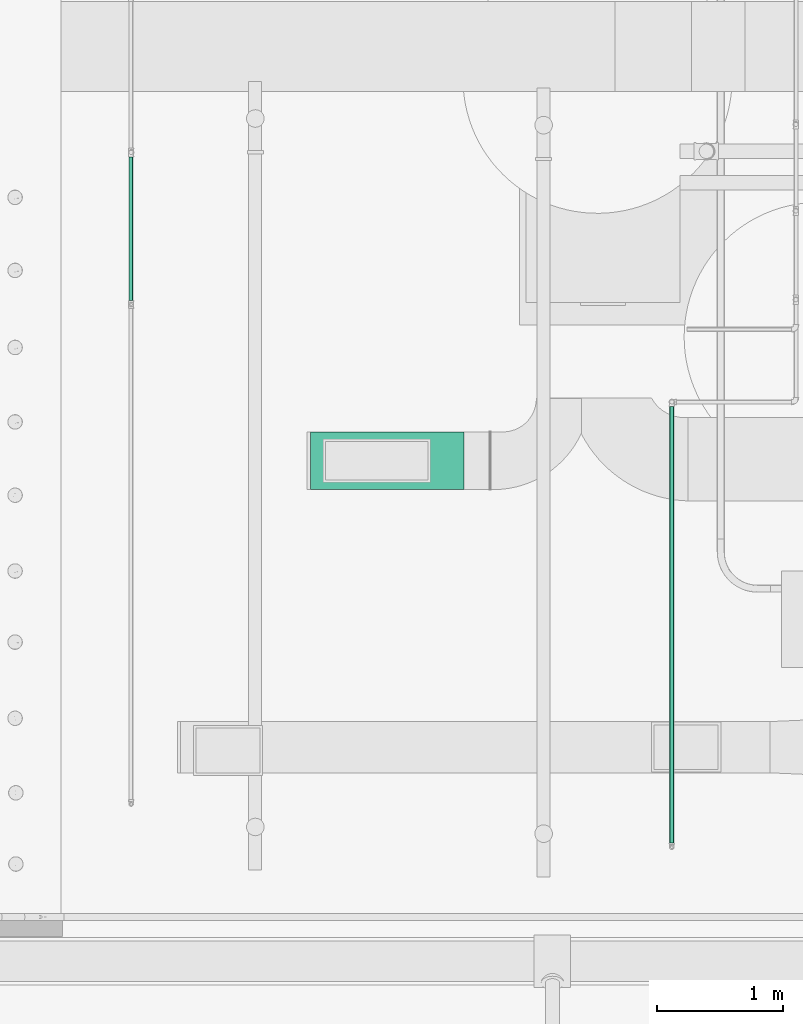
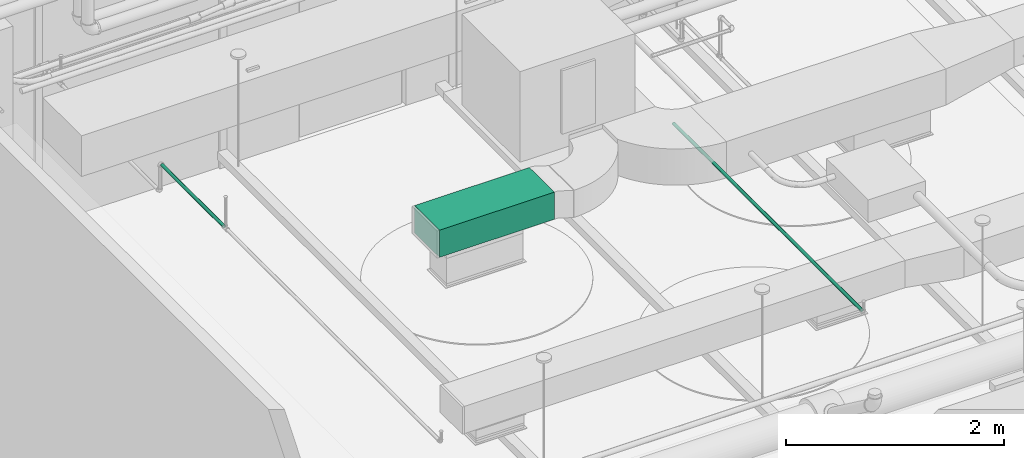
# One storey, part 25 of 108: 2 pipe segments, 1 duct segment.
"""IFC4 building model written with IfcOpenShell, lengths in feet."""

from ifc_helpers import new_model, entity, si_unit, converted_unit, derived_unit, direction, frame, frame_2d, origin, origin_2d_with_axis, place, context, subcontext, project, spatial, rectangle, circle, extrude, type_object, element, save


model = new_model("IFC4")

# Units and contexts
model_context = context("Model", 3, precision=0.0001, world=origin(), true_north=direction((6.12303176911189e-17, 1.0)))
body_context = subcontext(model_context, "Body", "Model", "MODEL_VIEW")
ifc_project = project(units=[converted_unit("LENGTHUNIT", "FOOT", entity("IfcRatioMeasure", 0.3048), si_unit("LENGTHUNIT", "METRE"), dimensions=[1, 0, 0, 0, 0, 0, 0]), converted_unit("AREAUNIT", "SQUARE FOOT", entity("IfcRatioMeasure", 0.09290304), si_unit("AREAUNIT", "SQUARE_METRE"), dimensions=[2, 0, 0, 0, 0, 0, 0]), converted_unit("VOLUMEUNIT", "CUBIC FOOT", entity("IfcRatioMeasure", 0.028316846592), si_unit("VOLUMEUNIT", "CUBIC_METRE"), dimensions=[3, 0, 0, 0, 0, 0, 0]), converted_unit("PLANEANGLEUNIT", "DEGREE", entity("IfcRatioMeasure", 0.0174532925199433), si_unit("PLANEANGLEUNIT", "RADIAN"), dimensions=[0, 0, 0, 0, 0, 0, 0]), si_unit("MASSUNIT", "GRAM", prefix="KILO"), derived_unit("MASSDENSITYUNIT", [(si_unit("MASSUNIT", "GRAM", prefix="KILO"), 1), (si_unit("LENGTHUNIT", "METRE"), -3)]), si_unit("TIMEUNIT", "SECOND"), si_unit("FREQUENCYUNIT", "HERTZ"), si_unit("THERMODYNAMICTEMPERATUREUNIT", "DEGREE_CELSIUS"), derived_unit("THERMALTRANSMITTANCEUNIT", [(si_unit("MASSUNIT", "GRAM", prefix="KILO"), 1), (si_unit("THERMODYNAMICTEMPERATUREUNIT", "KELVIN"), -1), (si_unit("TIMEUNIT", "SECOND"), -3)]), derived_unit("VOLUMETRICFLOWRATEUNIT", [(si_unit("LENGTHUNIT", "METRE"), 3), (si_unit("TIMEUNIT", "SECOND"), -1)]), si_unit("ELECTRICCURRENTUNIT", "AMPERE"), si_unit("ELECTRICVOLTAGEUNIT", "VOLT"), si_unit("POWERUNIT", "WATT"), si_unit("FORCEUNIT", "NEWTON"), si_unit("ILLUMINANCEUNIT", "LUX"), si_unit("LUMINOUSFLUXUNIT", "LUMEN"), si_unit("LUMINOUSINTENSITYUNIT", "CANDELA"), derived_unit("USERDEFINED", [(si_unit("MASSUNIT", "GRAM", prefix="KILO"), -1), (si_unit("LENGTHUNIT", "METRE"), -2), (si_unit("TIMEUNIT", "SECOND"), 3), (si_unit("LUMINOUSFLUXUNIT", "LUMEN"), 1)]), derived_unit("LINEARVELOCITYUNIT", [(si_unit("LENGTHUNIT", "METRE"), 1), (si_unit("TIMEUNIT", "SECOND"), -1)]), si_unit("PRESSUREUNIT", "PASCAL"), derived_unit("USERDEFINED", [(si_unit("LENGTHUNIT", "METRE"), -2), (si_unit("MASSUNIT", "GRAM", prefix="KILO"), 1), (si_unit("TIMEUNIT", "SECOND"), -2)])], contexts=[model_context])

# Site, building, storey
site_placement = place(None, origin())
site = spatial("IfcSite", under=ifc_project, at=site_placement, Name="Default", CompositionType="ELEMENT")
building_placement = place(site_placement, origin())
building = spatial("IfcBuilding", under=site, at=building_placement, CompositionType="ELEMENT")
storey_placement = place(building_placement, frame((0.0, 0.0, 168.0)))
storey = spatial("IfcBuildingStorey", under=building, at=storey_placement, Name="Level 15", CompositionType="ELEMENT", Elevation=168.0)

# Duct segment
duct_segment_type = type_object("IfcDuctSegmentType", Name="Rectangular Duct:Square Throat Elbows / S&D", PredefinedType="NOTDEFINED")
duct_segment_placement = place(storey_placement, frame((-46.1368423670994, -4.48331935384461, 9.91666666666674)))
element("IfcDuctSegment", 1, at=duct_segment_placement, inside=storey, type_object=duct_segment_type, Name="Rectangular Duct:Square Throat Elbows / S&D", ObjectType="Rectangular Duct:Square Throat Elbows / S&D", PredefinedType="NOTDEFINED", context=body_context, shape_type="SweptSolid", body=[
    extrude(rectangle(XDim=4.00000000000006, YDim=1.5, at=frame_2d((3.5527136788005e-15, 0.0), x_axis=(1.0, 0.0))), frame((2.0, 0.750000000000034, 0.0), z_axis=(0.0, 0.0, 1.0), x_axis=(-1.0, 0.0, 0.0)), (0.0, 0.0, 1.0), 1.0),
])

# Pipe segments
pipe_segment_type = type_object("IfcPipeSegmentType", Name="Pipe Types:Fire Prot Sched 10 Main", PredefinedType="NOTDEFINED")
pipe_segment_1_placement = place(storey_placement, frame((-50.8574057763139, 0.435906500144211, 9.64830783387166)))
element("IfcPipeSegment", 2, at=pipe_segment_1_placement, inside=storey, type_object=pipe_segment_type, Name="Pipe Types:Fire Prot Sched 10 Main", ObjectType="Pipe Types:Fire Prot Sched 10 Main", PredefinedType="NOTDEFINED", context=body_context, shape_type="SweptSolid", body=[
    extrude(circle(Radius=0.0547916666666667, at=frame_2d((7.8159700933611e-14, 2.8421709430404e-14), x_axis=(1.0, 0.0))), frame((0.0600254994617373, 0.0, 0.0600254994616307), z_axis=(0.0, 1.0, 0.0), x_axis=(-1.0, 0.0, 0.0)), (0.0, 0.0, 1.0), 3.72763846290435),
])
pipe_segment_2_placement = place(storey_placement, frame((-36.7949057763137, -13.6696913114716, 10.1899745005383)))
element("IfcPipeSegment", 3, at=pipe_segment_2_placement, inside=storey, type_object=pipe_segment_type, Name="Pipe Types:Fire Prot Sched 10 Main", ObjectType="Pipe Types:Fire Prot Sched 10 Main", PredefinedType="NOTDEFINED", context=body_context, shape_type="SweptSolid", body=[
    extrude(circle(Radius=0.0547916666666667, at=origin_2d_with_axis()), frame((0.0600254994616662, 0.0, 0.0600254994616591), z_axis=(0.0, 1.0, 0.0), x_axis=(1.0, 0.0, 0.0)), (0.0, 0.0, 1.0), 11.3456525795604),
])

save(model, "model.ifc")
